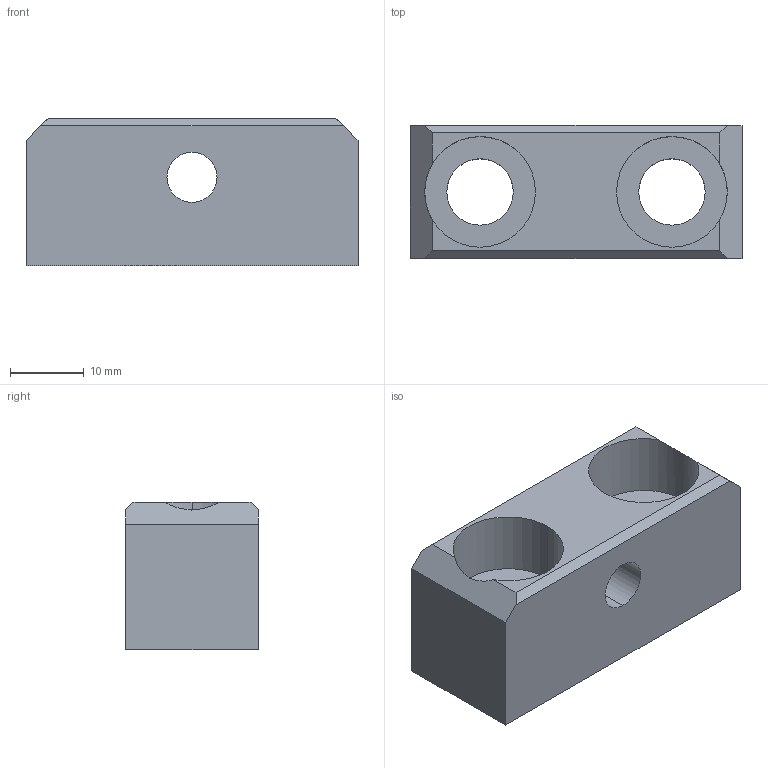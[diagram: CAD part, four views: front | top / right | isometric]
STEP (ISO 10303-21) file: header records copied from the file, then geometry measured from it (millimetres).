
FILE_DESCRIPTION (( 'STEP AP203' ), '1' );
FILE_NAME ('CY-DD-B012.step', '2023-12-27T04:44:31', ( '1' ), ( '' ), 'SwSTEP 2.0', 'SolidWorks 2022', '' );
FILE_SCHEMA (( 'CONFIG_CONTROL_DESIGN' ));
Length unit declared in the file: millimetre
Products named in the file (1): CY-DD-B012
Bounding box: 45 x 18 x 20 mm (x, y, z)
Volume: 10858.7 mm3; surface area: 5509.1 mm2
Topology: 1 solids, 1 shells, 22 faces, 60 edges, 40 vertices
Faces by surface type: plane 12, cylinder 10
Entity records: 793 total; most frequent: CARTESIAN_POINT 135, DIRECTION 122, ORIENTED_EDGE 120, EDGE_CURVE 60, AXIS2_PLACEMENT_3D 43, VERTEX_POINT 40, LINE 36, VECTOR 36
